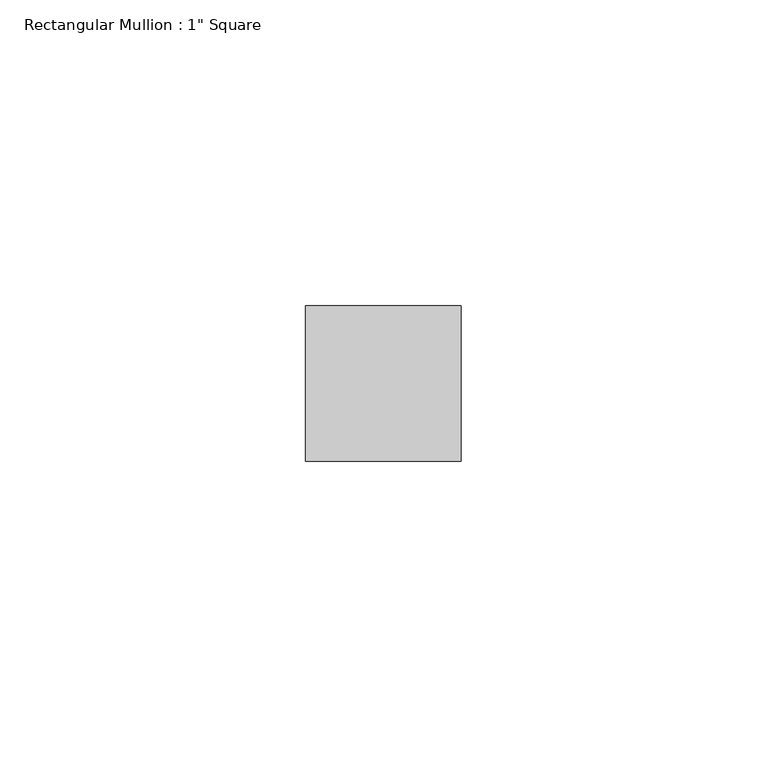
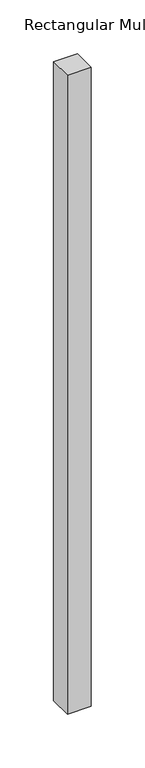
"""IFC4 building model written with IfcOpenShell, lengths in millimetres: member geometry."""

from ifc_helpers import new_model, si_unit, frame, origin, place, context, project, spatial, polyline, outline, extrude, source, transform, mapped, element, save


def member_eac71c60(model_context):
    return source(origin(), model_context, "Body", "SweptSolid", [
        extrude(outline(polyline([(12.7, -19.05), (12.7, -44.45), (-12.7, -44.45), (-12.7, -19.05), (12.7, -19.05)])), frame((0.0, 0.0, -723.9000002), z_axis=(0.0, 0.0, 1.0), x_axis=(1.0, 0.0, 0.0)), (0.0, 0.0, 1.0), 723.9000002),
    ])


if __name__ == "__main__":
    model = new_model("IFC4")
    model_context = context("Model", 3, world=origin())
    ifc_project = project(units=[si_unit("LENGTHUNIT", "METRE", prefix="MILLI")], contexts=[model_context])
    site = spatial("IfcSite", under=ifc_project)
    building = spatial("IfcBuilding", under=site)
    placement = place(None, origin())
    member_shape = member_eac71c60(model_context)
    element("IfcMember", 1, ObjectType="Rectangular Mullion : 1\" Square", at=placement, inside=building, context=model_context, shape_type="MappedRepresentation", body=[
        mapped(member_shape, transform((0.0, 0.0, 0.0), x_axis=(1.0, 0.0, 0.0), y_axis=(0.0, 1.0, 0.0), z_axis=(0.0, 0.0, 1.0))),
    ])
    save(model, "model.ifc")
